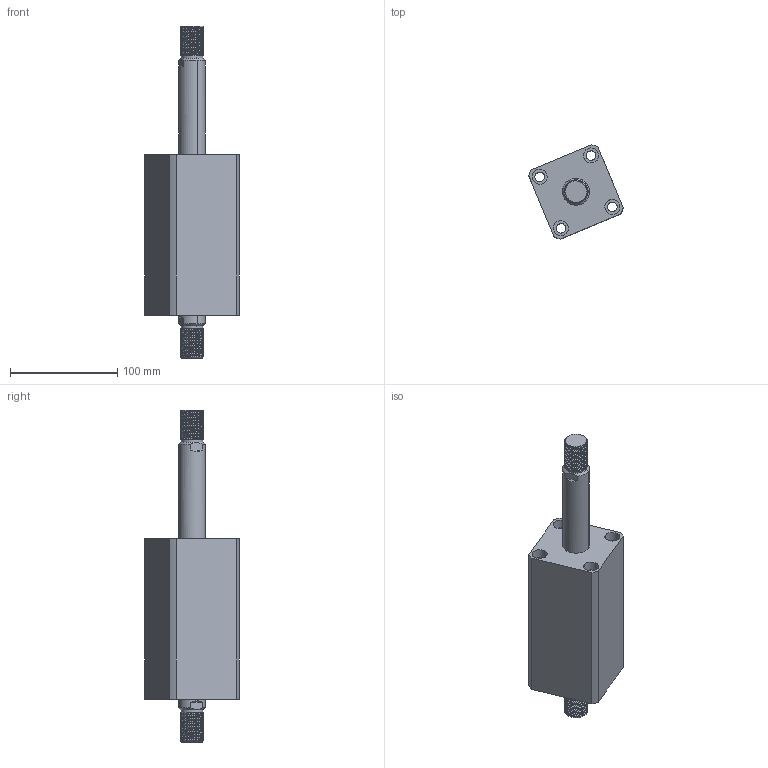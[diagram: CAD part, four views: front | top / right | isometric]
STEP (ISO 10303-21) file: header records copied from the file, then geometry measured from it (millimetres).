
FILE_DESCRIPTION (( 'STEP AP214' ), '1' );
FILE_NAME ('chtb-sw40x80w_asm.STEP', '2018-06-08T10:32:35', ( 'Windows' ), ( 'Microsoft' ), 'SwSTEP 2.0', 'SolidWorks 2015', '' );
FILE_SCHEMA (( 'AUTOMOTIVE_DESIGN' ));
Length unit declared in the file: millimetre
Products named in the file (4): CHTB-SW40X80NHSG; CHTB-SW40X80NBT; CHTB-SD40QG; chtb-sw40x80w_asm
Assembly tree (3 placements, depth 2):
  chtb-sw40x80w_asm
    CHTB-SD40QG
    CHTB-SW40X80NBT
    CHTB-SW40X80NHSG
Bounding box: 88.11 x 88.11 x 310 mm (x, y, z)
Volume: 688668.5 mm3; surface area: 125936.1 mm2
Topology: 3 solids, 3 shells, 254 faces, 680 edges, 452 vertices
Faces by surface type: cylinder 160, plane 46, bspline 18, cone 18, torus 12
Entity records: 17389 total; most frequent: CARTESIAN_POINT 11402, ORIENTED_EDGE 1348, DIRECTION 1094, EDGE_CURVE 674, VERTEX_POINT 452, AXIS2_PLACEMENT_3D 443, EDGE_LOOP 296, ADVANCED_FACE 254
